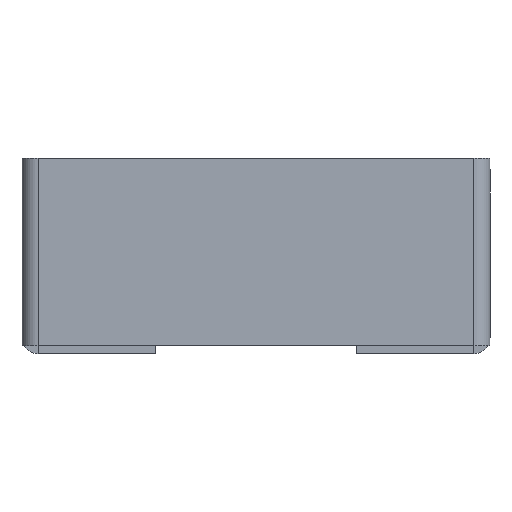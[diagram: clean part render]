
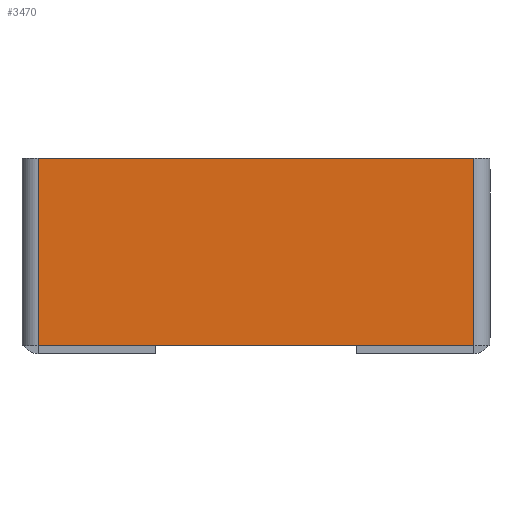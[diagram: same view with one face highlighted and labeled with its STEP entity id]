
A CAD part, front view. The second image highlights one B-rep face of the part: STEP entity #3470.
In plain terms, the highlighted planar face has unit normal (0, -1, 0).
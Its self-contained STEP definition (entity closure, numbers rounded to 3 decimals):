
#17 = AXIS2_PLACEMENT_3D ( 'NONE', #6037, #1936, #440 ) ;
#342 = CARTESIAN_POINT ( 'NONE',  ( -67.5, -2.5, 0. ) ) ;
#440 = DIRECTION ( 'NONE',  ( 0., 0., 1. ) ) ;
#614 = LINE ( 'NONE', #8843, #2907 ) ;
#761 = CARTESIAN_POINT ( 'NONE',  ( -67.5, -2.5, -58. ) ) ;
#1063 = VERTEX_POINT ( 'NONE', #3491 ) ;
#1895 = EDGE_CURVE ( 'NONE', #3984, #8576, #6935, .T. ) ;
#1936 = DIRECTION ( 'NONE',  ( 0., 1., 0. ) ) ;
#2117 = LINE ( 'NONE', #2945, #6893 ) ;
#2189 = CARTESIAN_POINT ( 'NONE',  ( 67.5, -2.5, -58. ) ) ;
#2349 = CARTESIAN_POINT ( 'NONE',  ( -70., -2.5, -58. ) ) ;
#2377 = CARTESIAN_POINT ( 'NONE',  ( -70., -2.5, 0. ) ) ;
#2907 = VECTOR ( 'NONE', #4726, 1000. ) ;
#2945 = CARTESIAN_POINT ( 'NONE',  ( -67.5, -2.5, 0. ) ) ;
#3234 = ORIENTED_EDGE ( 'NONE', *, *, #1895, .F. ) ;
#3240 = EDGE_CURVE ( 'NONE', #6486, #8576, #2117, .T. ) ;
#3470 = ADVANCED_FACE ( 'NONE', ( #4054 ), #8847, .F. ) ;
#3491 = CARTESIAN_POINT ( 'NONE',  ( 67.5, -2.5, 0. ) ) ;
#3984 = VERTEX_POINT ( 'NONE', #2189 ) ;
#4054 = FACE_OUTER_BOUND ( 'NONE', #4980, .T. ) ;
#4726 = DIRECTION ( 'NONE',  ( 0., 0., 1. ) ) ;
#4752 = EDGE_CURVE ( 'NONE', #6486, #1063, #6975, .T. ) ;
#4980 = EDGE_LOOP ( 'NONE', ( #7890, #3234, #5457, #5247 ) ) ;
#5132 = VECTOR ( 'NONE', #6624, 1000. ) ;
#5247 = ORIENTED_EDGE ( 'NONE', *, *, #4752, .F. ) ;
#5457 = ORIENTED_EDGE ( 'NONE', *, *, #7804, .T. ) ;
#6037 = CARTESIAN_POINT ( 'NONE',  ( 0., -2.5, 0. ) ) ;
#6486 = VERTEX_POINT ( 'NONE', #342 ) ;
#6624 = DIRECTION ( 'NONE',  ( 1., 0., 0. ) ) ;
#6893 = VECTOR ( 'NONE', #7114, 1000. ) ;
#6935 = LINE ( 'NONE', #2349, #8380 ) ;
#6975 = LINE ( 'NONE', #2377, #5132 ) ;
#7114 = DIRECTION ( 'NONE',  ( 0., 0., -1. ) ) ;
#7215 = DIRECTION ( 'NONE',  ( -1., 0., 0. ) ) ;
#7804 = EDGE_CURVE ( 'NONE', #3984, #1063, #614, .T. ) ;
#7890 = ORIENTED_EDGE ( 'NONE', *, *, #3240, .T. ) ;
#8380 = VECTOR ( 'NONE', #7215, 1000. ) ;
#8576 = VERTEX_POINT ( 'NONE', #761 ) ;
#8843 = CARTESIAN_POINT ( 'NONE',  ( 67.5, -2.5, -58. ) ) ;
#8847 = PLANE ( 'NONE',  #17 ) ;
